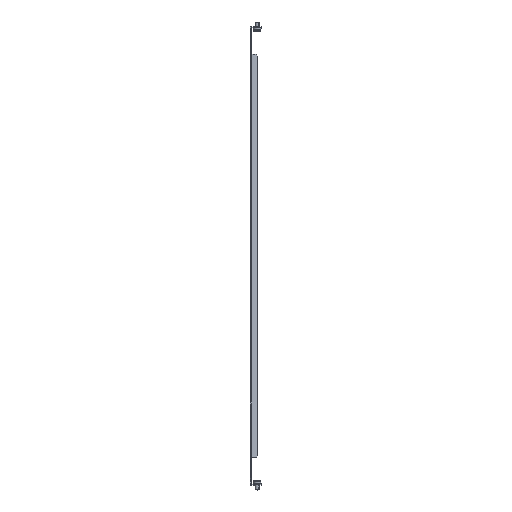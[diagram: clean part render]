
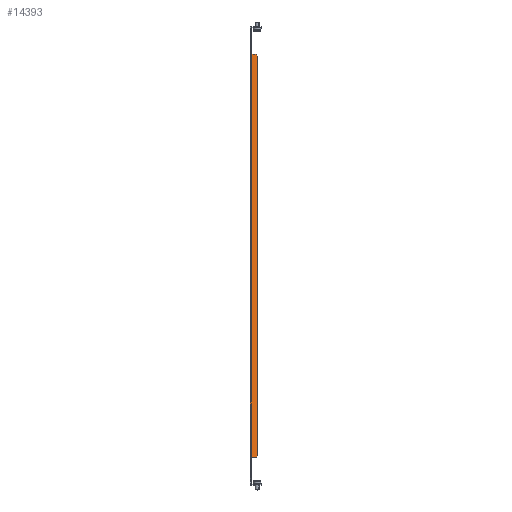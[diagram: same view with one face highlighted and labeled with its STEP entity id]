
A CAD part, top view. The second image highlights one B-rep face of the part: STEP entity #14393.
In plain terms, the highlighted planar face has unit normal (0.5, 0, 0.866).
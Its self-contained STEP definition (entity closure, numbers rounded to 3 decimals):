
#410 = EDGE_CURVE ( 'NONE', #21188, #12516, #5983, .T. ) ;
#1385 = ORIENTED_EDGE ( 'NONE', *, *, #18035, .F. ) ;
#1413 = CARTESIAN_POINT ( 'NONE',  ( 11.401, -307.75, 193.614 ) ) ;
#1995 = ORIENTED_EDGE ( 'NONE', *, *, #410, .T. ) ;
#2186 = VECTOR ( 'NONE', #25346, 1000. ) ;
#2973 = ORIENTED_EDGE ( 'NONE', *, *, #5414, .F. ) ;
#3123 = EDGE_LOOP ( 'NONE', ( #11095, #23244, #2973, #1995, #1385, #23072, #13083, #22144 ) ) ;
#4014 = CARTESIAN_POINT ( 'NONE',  ( 8.803, 310.75, 195.114 ) ) ;
#4856 = VERTEX_POINT ( 'NONE', #6813 ) ;
#5199 = CARTESIAN_POINT ( 'NONE',  ( 8.803, -310.75, 195.114 ) ) ;
#5373 = CARTESIAN_POINT ( 'NONE',  ( 11.401, 307.75, 193.614 ) ) ;
#5414 = EDGE_CURVE ( 'NONE', #21188, #11688, #25464, .T. ) ;
#5836 = DIRECTION ( 'NONE',  ( 0., -1., 0. ) ) ;
#5868 = VERTEX_POINT ( 'NONE', #9983 ) ;
#5983 = LINE ( 'NONE', #4014, #6851 ) ;
#6813 = CARTESIAN_POINT ( 'NONE',  ( 4.5, -310.75, 197.598 ) ) ;
#6851 = VECTOR ( 'NONE', #11992, 1000. ) ;
#7509 = EDGE_CURVE ( 'NONE', #5868, #11283, #23298, .T. ) ;
#8627 = CARTESIAN_POINT ( 'NONE',  ( 85.562, 0., 150.797 ) ) ;
#8714 = VECTOR ( 'NONE', #17092, 1000. ) ;
#9136 = LINE ( 'NONE', #15142, #8714 ) ;
#9353 = CARTESIAN_POINT ( 'NONE',  ( 0., -310.75, 200.196 ) ) ;
#9570 = VERTEX_POINT ( 'NONE', #5199 ) ;
#9597 = LINE ( 'NONE', #21365, #20783 ) ;
#9870 = DIRECTION ( 'NONE',  ( -0.866, 0., 0.5 ) ) ;
#9983 = CARTESIAN_POINT ( 'NONE',  ( 0., 310.75, 200.196 ) ) ;
#10055 = VECTOR ( 'NONE', #19798, 1000. ) ;
#10603 = VECTOR ( 'NONE', #5836, 1000. ) ;
#10718 = DIRECTION ( 'NONE',  ( 0.866, 0., -0.5 ) ) ;
#10930 = AXIS2_PLACEMENT_3D ( 'NONE', #8627, #16579, #10718 ) ;
#11021 = DIRECTION ( 'NONE',  ( 0., -1., 0. ) ) ;
#11095 = ORIENTED_EDGE ( 'NONE', *, *, #17614, .F. ) ;
#11283 = VERTEX_POINT ( 'NONE', #9353 ) ;
#11688 = VERTEX_POINT ( 'NONE', #1413 ) ;
#11981 = LINE ( 'NONE', #19708, #2186 ) ;
#11992 = DIRECTION ( 'NONE',  ( -0.612, 0.707, 0.354 ) ) ;
#12152 = PLANE ( 'NONE',  #10930 ) ;
#12497 = VERTEX_POINT ( 'NONE', #18636 ) ;
#12516 = VERTEX_POINT ( 'NONE', #14455 ) ;
#12785 = EDGE_CURVE ( 'NONE', #9570, #11688, #23594, .T. ) ;
#12962 = CARTESIAN_POINT ( 'NONE',  ( 0., 0., 200.196 ) ) ;
#13083 = ORIENTED_EDGE ( 'NONE', *, *, #7509, .T. ) ;
#13530 = LINE ( 'NONE', #21640, #14972 ) ;
#14393 = ADVANCED_FACE ( 'NONE', ( #22618 ), #12152, .F. ) ;
#14455 = CARTESIAN_POINT ( 'NONE',  ( 8.803, 310.75, 195.114 ) ) ;
#14662 = EDGE_CURVE ( 'NONE', #4856, #11283, #11981, .T. ) ;
#14972 = VECTOR ( 'NONE', #9870, 1000. ) ;
#15142 = CARTESIAN_POINT ( 'NONE',  ( 4.5, 310.75, 197.598 ) ) ;
#16579 = DIRECTION ( 'NONE',  ( -0.5, 0., -0.866 ) ) ;
#17092 = DIRECTION ( 'NONE',  ( -0.866, 0., 0.5 ) ) ;
#17614 = EDGE_CURVE ( 'NONE', #9570, #4856, #13530, .T. ) ;
#18035 = EDGE_CURVE ( 'NONE', #12497, #12516, #9597, .T. ) ;
#18636 = CARTESIAN_POINT ( 'NONE',  ( 4.5, 310.75, 197.598 ) ) ;
#18859 = EDGE_CURVE ( 'NONE', #12497, #5868, #9136, .T. ) ;
#19708 = CARTESIAN_POINT ( 'NONE',  ( 85.562, -310.75, 150.797 ) ) ;
#19798 = DIRECTION ( 'NONE',  ( 0.612, 0.707, -0.354 ) ) ;
#19919 = CARTESIAN_POINT ( 'NONE',  ( 11.401, -307.75, 193.614 ) ) ;
#20783 = VECTOR ( 'NONE', #23581, 1000. ) ;
#21188 = VERTEX_POINT ( 'NONE', #5373 ) ;
#21365 = CARTESIAN_POINT ( 'NONE',  ( 11.401, 310.75, 193.614 ) ) ;
#21640 = CARTESIAN_POINT ( 'NONE',  ( 2.25, -310.75, 198.897 ) ) ;
#21653 = CARTESIAN_POINT ( 'NONE',  ( 11.401, -310.75, 193.614 ) ) ;
#22144 = ORIENTED_EDGE ( 'NONE', *, *, #14662, .F. ) ;
#22618 = FACE_OUTER_BOUND ( 'NONE', #3123, .T. ) ;
#22863 = VECTOR ( 'NONE', #11021, 1000. ) ;
#23072 = ORIENTED_EDGE ( 'NONE', *, *, #18859, .T. ) ;
#23244 = ORIENTED_EDGE ( 'NONE', *, *, #12785, .T. ) ;
#23298 = LINE ( 'NONE', #12962, #22863 ) ;
#23581 = DIRECTION ( 'NONE',  ( 0.866, 0., -0.5 ) ) ;
#23594 = LINE ( 'NONE', #19919, #10055 ) ;
#25346 = DIRECTION ( 'NONE',  ( -0.866, 0., 0.5 ) ) ;
#25464 = LINE ( 'NONE', #21653, #10603 ) ;
